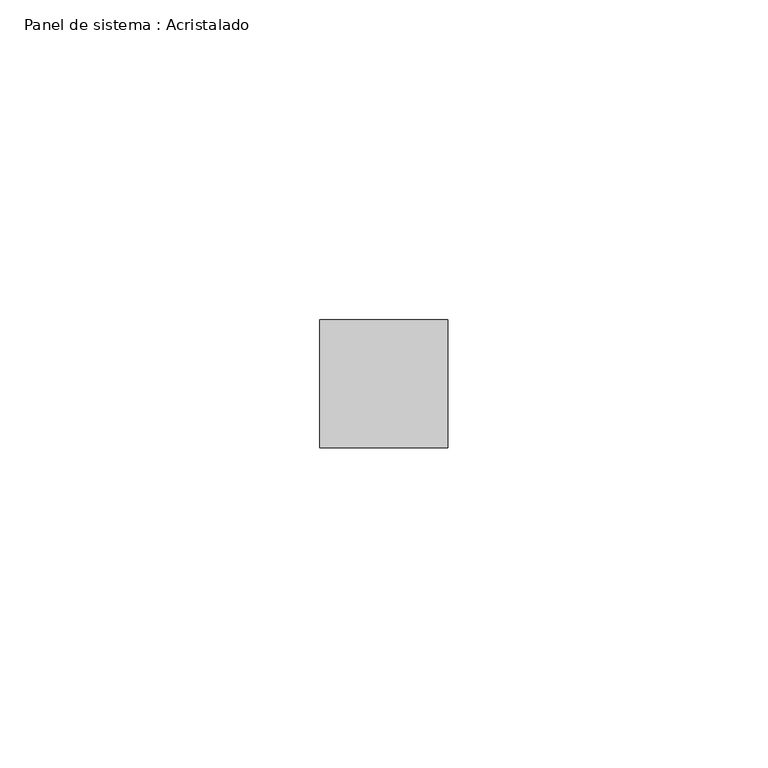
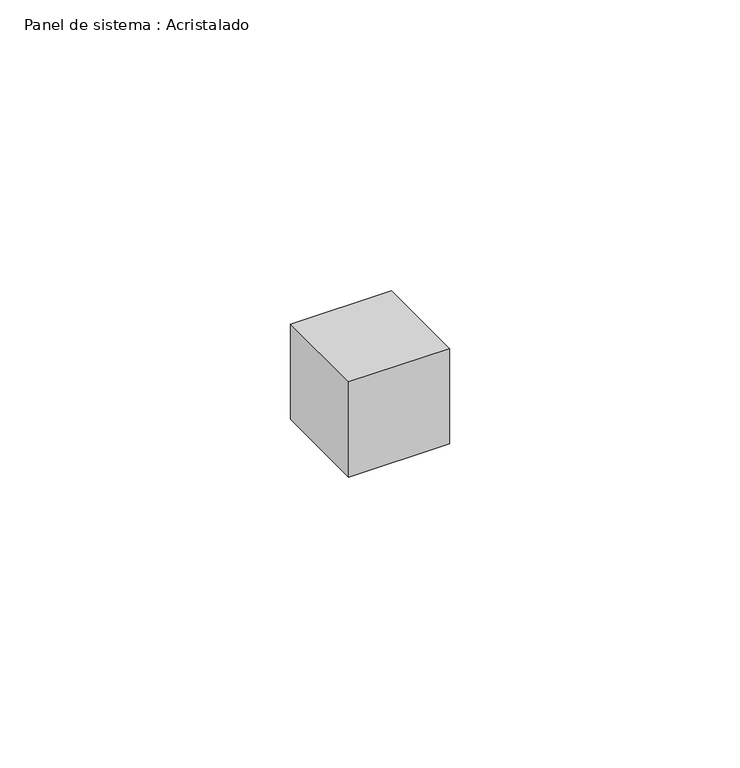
"""IFC4 building model written with IfcOpenShell, lengths in millimetres: plate geometry, Panel de sistema : Acristalado."""

from ifc_helpers import new_model, si_unit, origin, origin_with_axes, place, context, project, spatial, polyline, outline, extrude, source, transform, mapped, element, save


def panel_de_sistema_acristalado_2fe1d2c4(model_context):
    return source(origin(), model_context, "Body", "SweptSolid", [
        extrude(outline(polyline([(10.0, -10.0), (-10.0, -10.0), (-10.0, 10.0), (10.0, 10.0), (10.0, -10.0)])), origin_with_axes(), (0.0, 0.0, 1.0), 20.0),
    ])


if __name__ == "__main__":
    model = new_model("IFC4")
    model_context = context("Model", 3, world=origin())
    ifc_project = project(units=[si_unit("LENGTHUNIT", "METRE", prefix="MILLI")], contexts=[model_context])
    site = spatial("IfcSite", under=ifc_project)
    building = spatial("IfcBuilding", under=site)
    placement = place(None, origin())
    panel_de_sistema_acristalado_shape = panel_de_sistema_acristalado_2fe1d2c4(model_context)
    element("IfcPlate", 1, ObjectType="Panel de sistema : Acristalado", at=placement, inside=building, context=model_context, shape_type="MappedRepresentation", body=[
        mapped(panel_de_sistema_acristalado_shape, transform((0.0, 0.0, 0.0), x_axis=(1.0, 0.0, 0.0), y_axis=(0.0, 1.0, 0.0), z_axis=(0.0, 0.0, 1.0))),
    ])
    save(model, "model.ifc")
